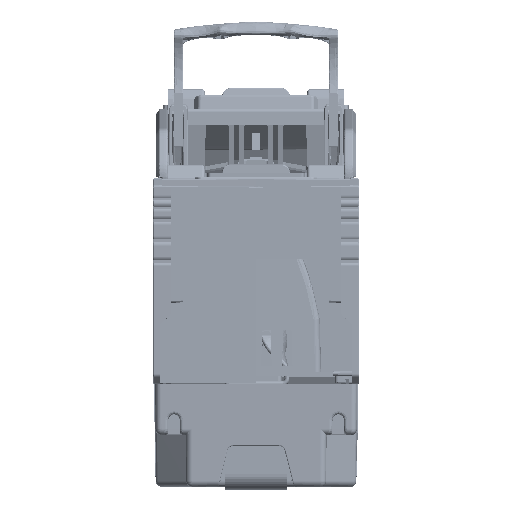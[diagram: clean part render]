
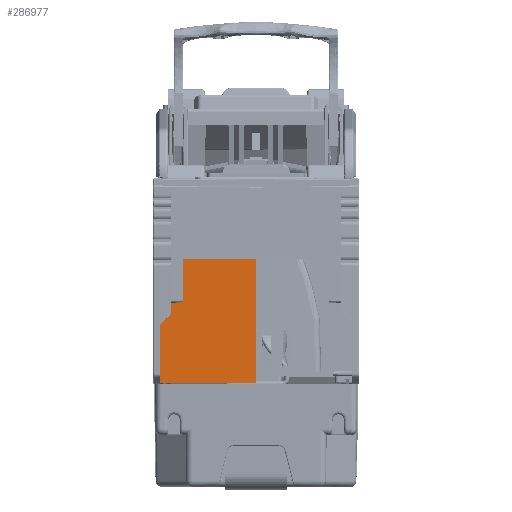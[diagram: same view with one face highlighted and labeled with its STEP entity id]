
A CAD part, left-side view. The second image highlights one B-rep face of the part: STEP entity #286977.
In plain terms, the highlighted planar face has unit normal (-1, 0, 0).
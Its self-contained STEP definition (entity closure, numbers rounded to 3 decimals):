
#286785=DIRECTION('',(0.,0.,-1.));
#286786=VECTOR('',#286785,92.201);
#286787=CARTESIAN_POINT('',(-327.365,0.,
92.67));
#286788=LINE('',#286787,#286786);
#286817=DIRECTION('',(0.,1.,0.));
#286818=VECTOR('',#286817,48.);
#286819=CARTESIAN_POINT('',(-327.365,0.,
92.67));
#286820=LINE('',#286819,#286818);
#286821=DIRECTION('',(0.,1.,0.));
#286822=VECTOR('',#286821,48.);
#286823=CARTESIAN_POINT('',(-327.365,0.,
0.469));
#286824=LINE('',#286823,#286822);
#286845=DIRECTION('',(0.,0.,-1.));
#286846=VECTOR('',#286845,92.201);
#286847=CARTESIAN_POINT('',(-327.365,48.,
92.67));
#286848=LINE('',#286847,#286846);
#286858=CARTESIAN_POINT('',(-327.365,0.,
92.67));
#286860=VERTEX_POINT('',#286858);
#286861=CARTESIAN_POINT('',(-327.365,0.,
0.469));
#286862=VERTEX_POINT('',#286861);
#286868=CARTESIAN_POINT('',(-327.365,48.,
92.67));
#286870=VERTEX_POINT('',#286868);
#286871=CARTESIAN_POINT('',(-327.365,48.,
0.469));
#286872=VERTEX_POINT('',#286871);
#286964=CARTESIAN_POINT('',(-327.365,0.,
92.67));
#286965=DIRECTION('',(-1.,0.,0.));
#286966=DIRECTION('',(0.,0.,-1.));
#286967=AXIS2_PLACEMENT_3D('',#286964,#286965,#286966);
#286968=PLANE('',#286967);
#286969=ORIENTED_EDGE('',*,*,#286896,.T.);
#286971=ORIENTED_EDGE('',*,*,#286970,.T.);
#286973=ORIENTED_EDGE('',*,*,#286972,.F.);
#286974=ORIENTED_EDGE('',*,*,#286956,.F.);
#286975=EDGE_LOOP('',(#286969,#286971,#286973,#286974));
#286976=FACE_OUTER_BOUND('',#286975,.F.);
#286896=EDGE_CURVE('',#286860,#286862,#286788,.T.);
#286956=EDGE_CURVE('',#286860,#286870,#286820,.T.);
#286970=EDGE_CURVE('',#286862,#286872,#286824,.T.);
#286972=EDGE_CURVE('',#286870,#286872,#286848,.T.);
#286977=ADVANCED_FACE('',(#286976),#286968,.T.);
